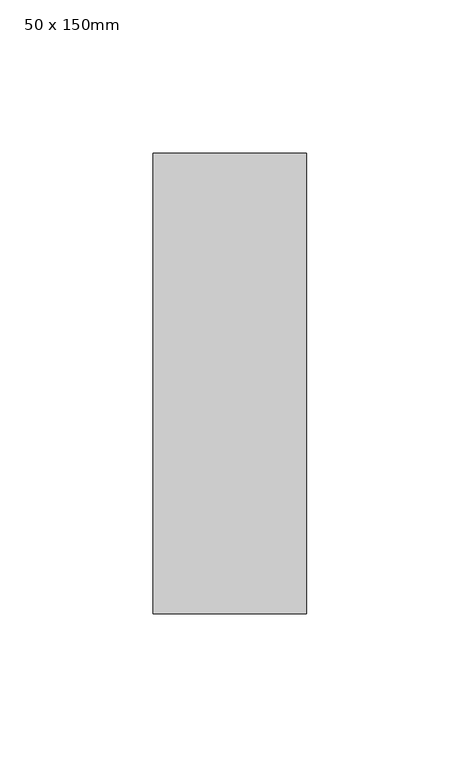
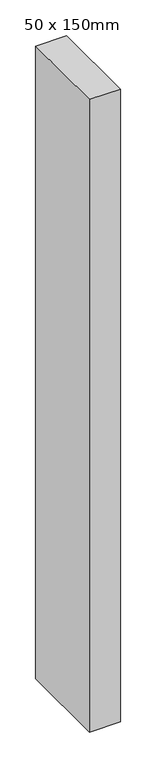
"""IFC4 building model written with IfcOpenShell, lengths in millimetres: member geometry, Прямоугольный импост : 50 x 150mm."""

from ifc_helpers import new_model, si_unit, frame, origin, place, context, project, spatial, polyline, outline, extrude, source, transform, mapped, element, save


def member_50_x_150mm_25db5c07(model_context):
    return source(origin(), model_context, "Body", "SweptSolid", [
        extrude(outline(polyline([(0.0, 75.0), (0.0, -75.0), (-50.0, -75.0), (-50.0, 75.0), (0.0, 75.0)])), frame((0.0, 0.0, -1078.1535386), z_axis=(0.0, 0.0, 1.0), x_axis=(1.0, 0.0, 0.0)), (0.0, 0.0, 1.0), 1078.1535386),
    ])


if __name__ == "__main__":
    model = new_model("IFC4")
    model_context = context("Model", 3, world=origin())
    ifc_project = project(units=[si_unit("LENGTHUNIT", "METRE", prefix="MILLI")], contexts=[model_context])
    site = spatial("IfcSite", under=ifc_project)
    building = spatial("IfcBuilding", under=site)
    placement = place(None, origin())
    member_50_x_150mm_shape = member_50_x_150mm_25db5c07(model_context)
    element("IfcMember", 1, ObjectType="Прямоугольный импост : 50 x 150mm", at=placement, inside=building, context=model_context, shape_type="MappedRepresentation", body=[
        mapped(member_50_x_150mm_shape, transform((0.0, 0.0, 0.0), x_axis=(1.0, 0.0, 0.0), y_axis=(0.0, 1.0, 0.0), z_axis=(0.0, 0.0, 1.0))),
    ])
    save(model, "model.ifc")
